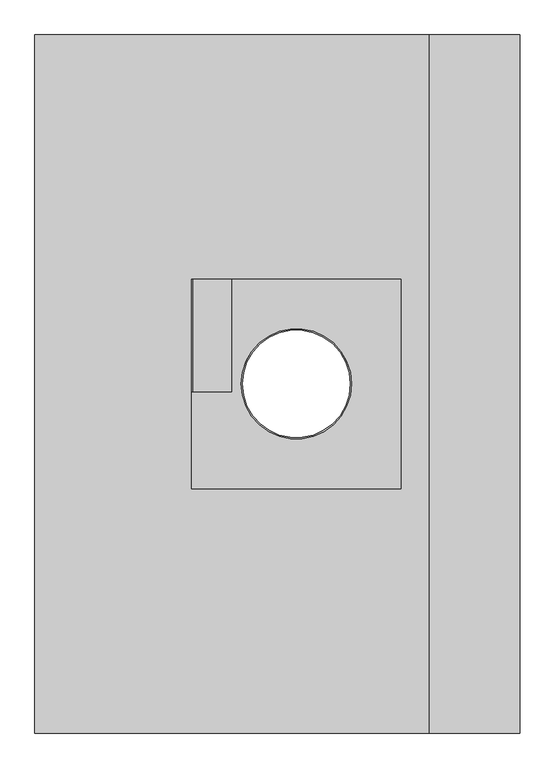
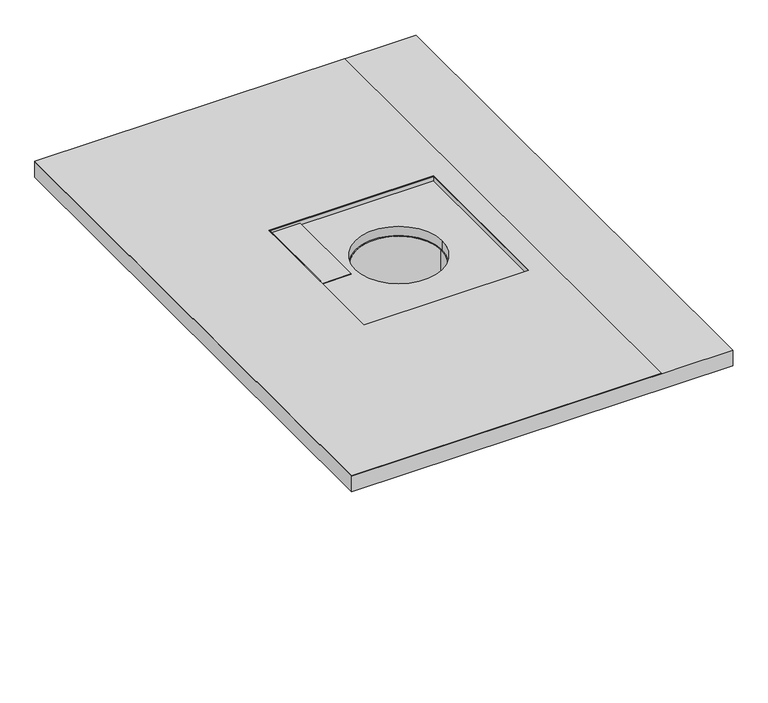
"""IFC4 building model written with IfcOpenShell, lengths in millimetres: proxy geometry, IMPER:IMPER:433934 : IMPER:IMPER:433934."""

from ifc_helpers import new_model, si_unit, point, frame, frame_2d, origin, place, context, project, spatial, polyline, circle_curve, trimmed, segment, composite_curve, outline, extrude, source, transform, mapped, element, save
from ifc_brep_helpers import plane_surface, revolved_surface, advanced_brep


def generic_models_2e1e7297(model_context):
    return source(origin(), model_context, "Body", "SolidModel", [
        extrude(outline(polyline([(28.5018705, 773.6644952), (28.5018705, 772.6644952), (21.4797492, 772.6644952), (21.4797492, 829.6450035), (22.4797492, 829.6450035), (22.4797492, 773.6644952), (28.5018705, 773.6644952)])), frame((0.0, -1249.0790672, 0.0), z_axis=(0.0, 1.0, 0.0), x_axis=(0.0, 0.0, 1.0)), (0.0, 0.0, 1.0), 161.0878647),
        extrude(outline(composite_curve([segment(trimmed(circle_curve(frame_2d((922.6644952, -1237.9912025)), 79.0), [point((1001.6644952, -1237.9912025))], [point((843.6644952, -1237.9912025))], False, "CARTESIAN"), True, "CONTINUOUS"), segment(trimmed(circle_curve(frame_2d((922.6644952, -1237.9912025)), 79.0), [point((843.6644952, -1237.9912025))], [point((1001.6644952, -1237.9912025))], False, "CARTESIAN"), True, "CONTINUOUS")], self_intersect=False), holes=[composite_curve([segment(trimmed(circle_curve(frame_2d((922.6644952, -1237.9912025)), 77.0), [point((999.6644952, -1237.9912025))], [point((845.6644952, -1237.9912025))], True, "CARTESIAN"), True, "CONTINUOUS"), segment(trimmed(circle_curve(frame_2d((922.6644952, -1237.9912025)), 77.0), [point((845.6644952, -1237.9912025))], [point((999.6644952, -1237.9912025))], True, "CARTESIAN"), True, "CONTINUOUS")], self_intersect=False)]), frame((0.0, 0.0, -340.9331242), z_axis=(0.0, 0.0, 1.0), x_axis=(1.0, 0.0, 0.0)), (0.0, 0.0, 1.0), 343.0051027),
        advanced_brep(
        [(1243.085242, -738.0570215, 27.476202), (1243.085242, -738.0570215, -2.523798), (547.8103968, -738.0570215, -2.523798), (547.8103968, -738.0570215, 27.476202), (1243.085242, -1738.0570215, 27.476202), (547.8103968, -1738.0570215, 27.476202), (547.8103968, -1738.0570215, -2.523798), (1243.085242, -1738.0570215, -2.523798), (772.6644952, -1087.9912025, 27.476202), (1072.6644952, -1087.9912025, 27.476202), (1072.6644952, -1387.9912025, 27.476202), (772.6644952, -1387.9912025, 27.476202), (1001.6644952, -1237.9912025, -2.523798), (843.6644952, -1237.9912025, -2.523798), (772.6644952, -1087.9912025, 19.4061759), (1072.6644952, -1087.9912025, 19.4061759), (772.6644952, -1387.9912025, 19.4061759), (1072.6644952, -1387.9912025, 19.4061759), (843.6644952, -1237.9912025, 19.4061759), (1001.6644952, -1237.9912025, 19.4061759)],
        [
            (0, 1),
            (1, 2),
            (2, 3),
            (3, 0),
            (4, 5),
            (5, 6),
            (6, 7),
            (7, 4),
            (3, 5),
            (4, 0),
            (8, 9),
            (9, 10),
            (10, 11),
            (11, 8),
            (7, 1),
            (6, 2),
            (12, 13, circle_curve(frame((922.6644952, -1237.9912025, -2.523798), z_axis=(0.0, 0.0, 1.0), x_axis=(1.0, 0.0, 0.0)), 79.0)),
            (13, 12, circle_curve(frame((922.6644952, -1237.9912025, -2.523798), z_axis=(0.0, 0.0, 1.0), x_axis=(1.0, 0.0, 0.0)), 79.0)),
            (14, 15),
            (15, 9),
            (8, 14),
            (16, 14),
            (11, 16),
            (17, 16),
            (10, 17),
            (15, 17),
            (18, 19, circle_curve(frame((922.6644952, -1237.9912025, 19.4061759), z_axis=(0.0, 0.0, -1.0), x_axis=(1.0, 0.0, 0.0)), 79.0)),
            (19, 18, circle_curve(frame((922.6644952, -1237.9912025, 19.4061759), z_axis=(0.0, 0.0, -1.0), x_axis=(1.0, 0.0, 0.0)), 79.0)),
            (12, 19),
            (18, 13),
        ],
        [
            plane_surface(frame((1243.085242, -738.0570215, -2.523798), z_axis=(0.0, 1.0, 0.0), x_axis=(0.0, 0.0, -1.0))),
            plane_surface(frame((1243.085242, -1738.0570215, -2.523798), z_axis=(0.0, -1.0, 0.0), x_axis=(0.0, 0.0, 1.0))),
            plane_surface(frame((547.8103968, -738.0570215, 27.476202), z_axis=(0.0, 0.0, 1.0), x_axis=(0.0, -1.0, 0.0))),
            plane_surface(frame((1243.085242, -738.0570215, 27.476202), z_axis=(1.0, 0.0, 0.0), x_axis=(0.0, -1.0, 0.0))),
            plane_surface(frame((1243.085242, -738.0570215, -2.523798), z_axis=(0.0, 0.0, -1.0), x_axis=(0.0, -1.0, 0.0))),
            plane_surface(frame((547.8103968, -738.0570215, -2.523798), z_axis=(-1.0, 0.0, 0.0), x_axis=(0.0, -1.0, 0.0))),
            plane_surface(frame((1072.6644952, -1087.9912025, 396.8938125), z_axis=(0.0, -1.0, 0.0), x_axis=(0.0, 0.0, -1.0))),
            plane_surface(frame((772.6644952, -1087.9912025, 396.8938125), z_axis=(1.0, 0.0, 0.0), x_axis=(0.0, 0.0, -1.0))),
            plane_surface(frame((772.6644952, -1387.9912025, 396.8938125), z_axis=(0.0, 1.0, 0.0), x_axis=(0.0, 0.0, -1.0))),
            plane_surface(frame((1072.6644952, -1387.9912025, 396.8938125), z_axis=(-1.0, 0.0, 0.0), x_axis=(0.0, 0.0, -1.0))),
            plane_surface(frame((772.6644952, -1087.9912025, 19.4061759), z_axis=(0.0, 0.0, 1.0), x_axis=(1.0, 0.0, 0.0))),
            revolved_surface(polyline([(1001.6644952, -1237.9912025, 19.406175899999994), (1001.6644952, -1237.9912025, -2.523798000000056)]), (922.6644952, -1237.9912025, -602.3626682), (0.0, 0.0, 1.0)),
        ],
        [
            (0, [[1, 2, 3, 4]]),
            (1, [[5, 6, 7, 8]]),
            (2, [[-4, 9, -5, 10], [11, 12, 13, 14]]),
            (3, [[-1, -10, -8, 15]]),
            (4, [[-2, -15, -7, 16], [17, 18]]),
            (5, [[-3, -16, -6, -9]]),
            (6, [[19, 20, -11, 21]]),
            (7, [[22, -21, -14, 23]]),
            (8, [[24, -23, -13, 25]]),
            (9, [[26, -25, -12, -20]]),
            (10, [[-19, -22, -24, -26], [27, 28]]),
            (11, [[-17, 29, -27, 30]]),
            (11, [[-18, -30, -28, -29]]),
        ],
    ),
        extrude(outline(polyline([(547.8103968, -738.0570215), (1112.6644952, -738.0570215), (1112.6644952, -1738.0570215), (547.8103968, -1738.0570215), (547.8103968, -738.0570215)]), holes=[polyline([(1072.6644952, -1087.9912025), (772.6644952, -1087.9912025), (772.6644952, -1387.9912025), (1072.6644952, -1387.9912025), (1072.6644952, -1087.9912025)])]), frame((0.0, 0.0, 27.476202), z_axis=(0.0, 0.0, 1.0), x_axis=(1.0, 0.0, 0.0)), (0.0, 0.0, 1.0), 1.0256685),
    ])


if __name__ == "__main__":
    model = new_model("IFC4")
    model_context = context("Model", 3, world=origin())
    ifc_project = project(units=[si_unit("LENGTHUNIT", "METRE", prefix="MILLI")], contexts=[model_context])
    site = spatial("IfcSite", under=ifc_project)
    building = spatial("IfcBuilding", under=site)
    placement = place(None, origin())
    generic_models_shape = generic_models_2e1e7297(model_context)
    element("IfcBuildingElementProxy", 1, Name="IMPER:IMPER:433934 : IMPER:IMPER:433934", ObjectType="IMPER:IMPER:433934 : IMPER:IMPER:433934", at=placement, inside=building, context=model_context, shape_type="MappedRepresentation", body=[
        mapped(generic_models_shape, transform((0.0, 0.0, 0.0), x_axis=(1.0, 0.0, 0.0), y_axis=(0.0, 1.0, 0.0), z_axis=(0.0, 0.0, 1.0))),
    ])
    save(model, "model.ifc")
